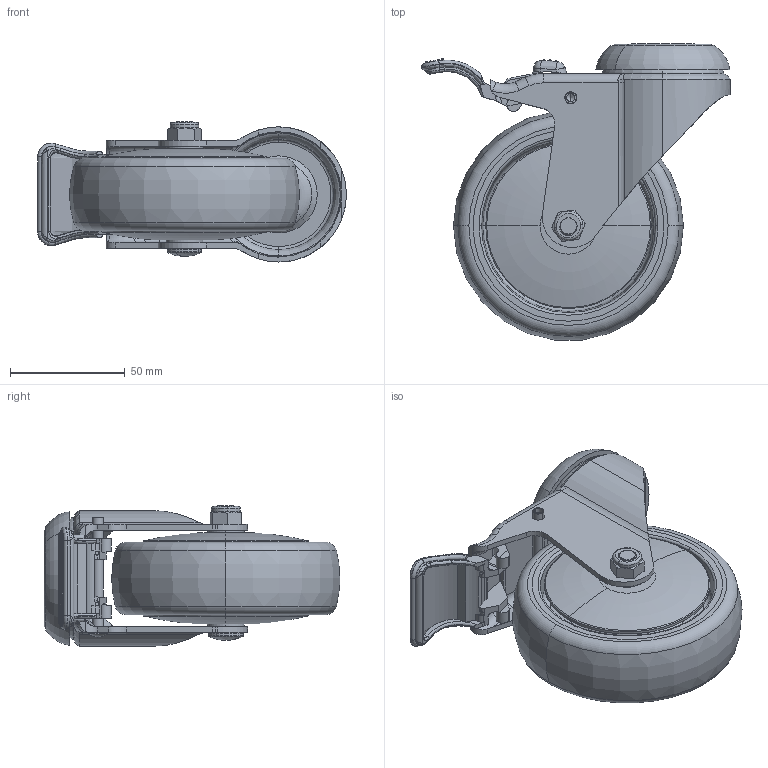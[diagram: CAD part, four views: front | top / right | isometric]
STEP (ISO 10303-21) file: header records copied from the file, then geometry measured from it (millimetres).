
FILE_DESCRIPTION (( 'STEP AP203' ), '1' );
FILE_NAME ('4111604004053-高級白鐵活煞PPR輪(白鐵軸承).STEP', '2026-02-24T01:53:05', ( '' ), ( '' ), 'SwSTEP 2.0', 'SolidWorks 2019', '' );
FILE_SCHEMA (( 'CONFIG_CONTROL_DESIGN' ));
Length unit declared in the file: metre
Products named in the file (1): 4111604004053-高級白鐵活煞PPR輪(白鐵軸承)
Bounding box: 134.26 x 128.69 x 60.9 mm (x, y, z)
Surface area: 78722.4 mm2 (no closed solid volume)
Topology: 0 solids, 15 shells, 494 faces, 1419 edges, 915 vertices
Faces by surface type: cylinder 139, plane 130, bspline 116, torus 77, cone 16, sphere 16
Entity records: 26168 total; most frequent: CARTESIAN_POINT 14500, ORIENTED_EDGE 2542, DIRECTION 2130, EDGE_CURVE 1406, VERTEX_POINT 915, AXIS2_PLACEMENT_3D 840, EDGE_LOOP 528, ADVANCED_FACE 494
